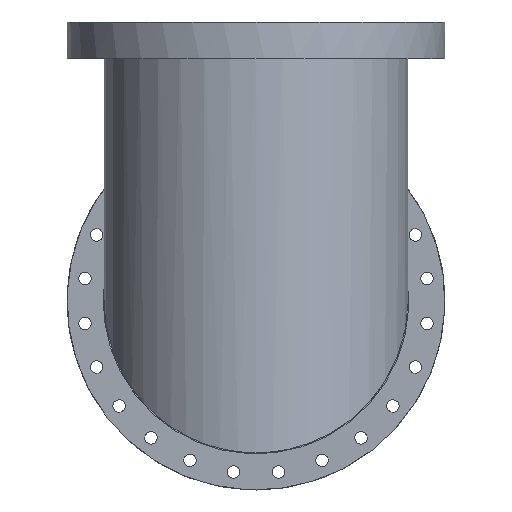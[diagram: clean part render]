
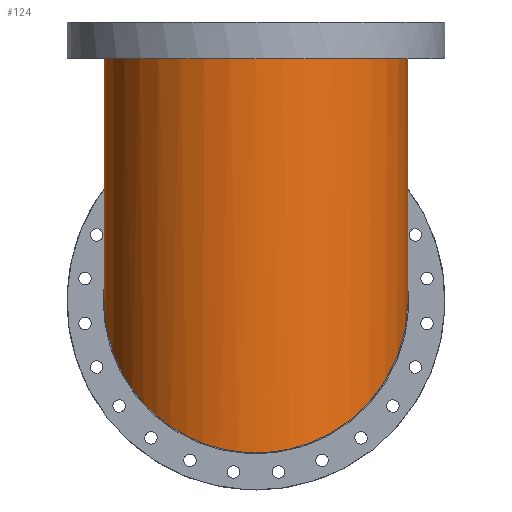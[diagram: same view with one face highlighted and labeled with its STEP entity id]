
A CAD part, left-side view. The second image highlights one B-rep face of the part: STEP entity #124.
In plain terms, the highlighted cylindrical face has radius 102 mm (diameter 204 mm), a full revolution.
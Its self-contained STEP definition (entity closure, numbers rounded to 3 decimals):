
#124 = ADVANCED_FACE( '', ( #255, #256 ), #257, .T. );
#255 = FACE_OUTER_BOUND( '', #485, .T. );
#256 = FACE_OUTER_BOUND( '', #486, .T. );
#257 = CYLINDRICAL_SURFACE( '', #487, 102. );
#485 = EDGE_LOOP( '', ( #709 ) );
#486 = EDGE_LOOP( '', ( #710 ) );
#487 = AXIS2_PLACEMENT_3D( '', #711, #712, #713 );
#709 = ORIENTED_EDGE( '', *, *, #1021, .T. );
#710 = ORIENTED_EDGE( '', *, *, #1022, .F. );
#711 = CARTESIAN_POINT( '', ( 0., 0., 1323.279 ) );
#712 = DIRECTION( '', ( 0., 0., 1. ) );
#713 = DIRECTION( '', ( -1., 0., 0. ) );
#1021 = EDGE_CURVE( '', #1144, #1144, #1145, .F. );
#1022 = EDGE_CURVE( '', #1146, #1146, #1147, .T. );
#1144 = VERTEX_POINT( '', #1331 );
#1145 = CIRCLE( '', #1332, 102. );
#1146 = VERTEX_POINT( '', #1333 );
#1147 = ELLIPSE( '', #1334, 144.25, 102. );
#1331 = CARTESIAN_POINT( '', ( 102., 0., 178. ) );
#1332 = AXIS2_PLACEMENT_3D( '', #1592, #1593, #1594 );
#1333 = CARTESIAN_POINT( '', ( 102., 0., 102. ) );
#1334 = AXIS2_PLACEMENT_3D( '', #1595, #1596, #1597 );
#1592 = CARTESIAN_POINT( '', ( 0., 0., 178. ) );
#1593 = DIRECTION( '', ( 0., 0., 1. ) );
#1594 = DIRECTION( '', ( 1., 0., 0. ) );
#1595 = CARTESIAN_POINT( '', ( 0., 0., 0. ) );
#1596 = DIRECTION( '', ( 0.707, 0., -0.707 ) );
#1597 = DIRECTION( '', ( 0.707, 0., 0.707 ) );
